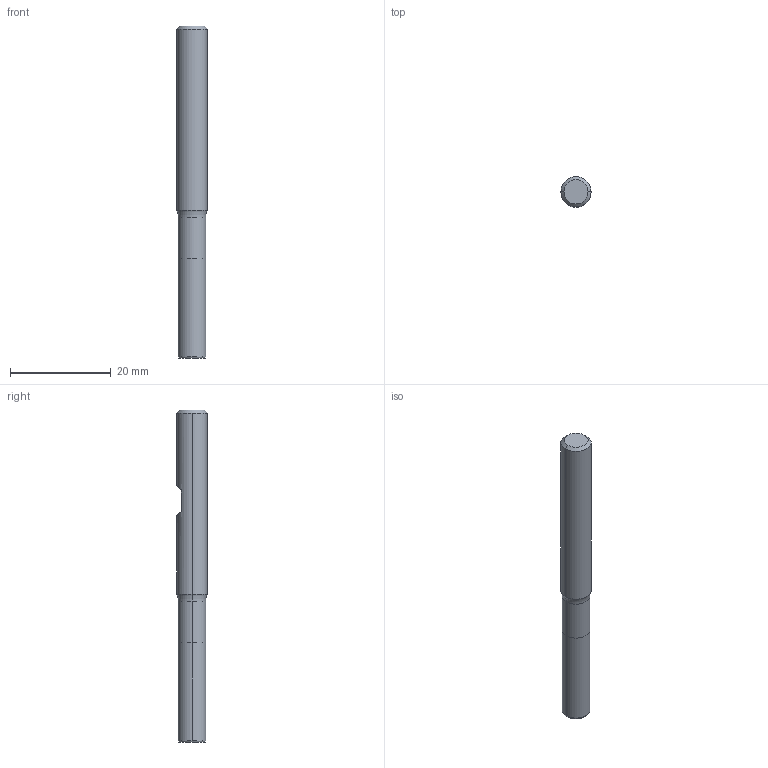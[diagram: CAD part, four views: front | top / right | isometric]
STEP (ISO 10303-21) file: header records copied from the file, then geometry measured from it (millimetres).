
FILE_DESCRIPTION (( 'STEP AP214' ), '1' );
FILE_NAME ('817.055.10_3D-model.step', '2022-02-23T23:19:41', ( '' ), ( '' ), 'SwSTEP 2.0', 'SolidWorks 2020', '' );
FILE_SCHEMA (( 'AUTOMOTIVE_DESIGN' ));
Length unit declared in the file: millimetre
Products named in the file (3): CUT-3D^Baugr53; NOCUT-3D^Baugr53; 817.055.10_3D-model
Assembly tree (2 placements, depth 2):
  817.055.10_3D-model
    CUT-3D^Baugr53
    NOCUT-3D^Baugr53
Bounding box: 6 x 6 x 66 mm (x, y, z)
Volume: 1718.7 mm3; surface area: 1289.3 mm2
Topology: 2 solids, 2 shells, 19 faces, 34 edges, 20 vertices
Faces by surface type: plane 7, cylinder 6, cone 4, torus 2
Entity records: 584 total; most frequent: DIRECTION 104, CARTESIAN_POINT 87, ORIENTED_EDGE 68, AXIS2_PLACEMENT_3D 45, EDGE_CURVE 34, EDGE_LOOP 20, VERTEX_POINT 20, ADVANCED_FACE 19
